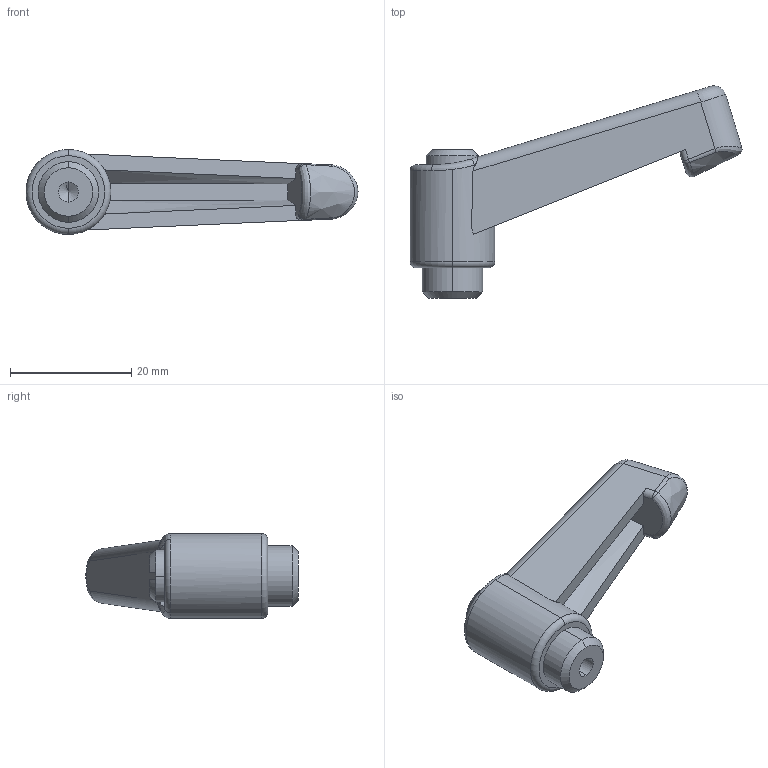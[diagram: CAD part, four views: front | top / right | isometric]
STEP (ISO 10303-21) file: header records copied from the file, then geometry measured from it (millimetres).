
FILE_DESCRIPTION (( 'STEP AP203' ), '1' );
FILE_NAME ('A-403-45-M4.STEP', '2015-11-21T17:29:48', ( '' ), ( '' ), 'SwSTEP 2.0', 'SolidWorks 2014', '' );
FILE_SCHEMA (( 'CONFIG_CONTROL_DESIGN' ));
Length unit declared in the file: millimetre
Products named in the file (1): A-403-45-M4
Bounding box: 54.78 x 35 x 14 mm (x, y, z)
Volume: 6798.2 mm3; surface area: 3577.2 mm2
Topology: 1 solids, 1 shells, 60 faces, 144 edges, 87 vertices
Faces by surface type: plane 18, cylinder 17, bspline 11, cone 6, torus 4, sphere 4
Entity records: 2311 total; most frequent: CARTESIAN_POINT 950, ORIENTED_EDGE 284, DIRECTION 253, EDGE_CURVE 142, AXIS2_PLACEMENT_3D 104, VERTEX_POINT 87, EDGE_LOOP 63, FACE_OUTER_BOUND 60
